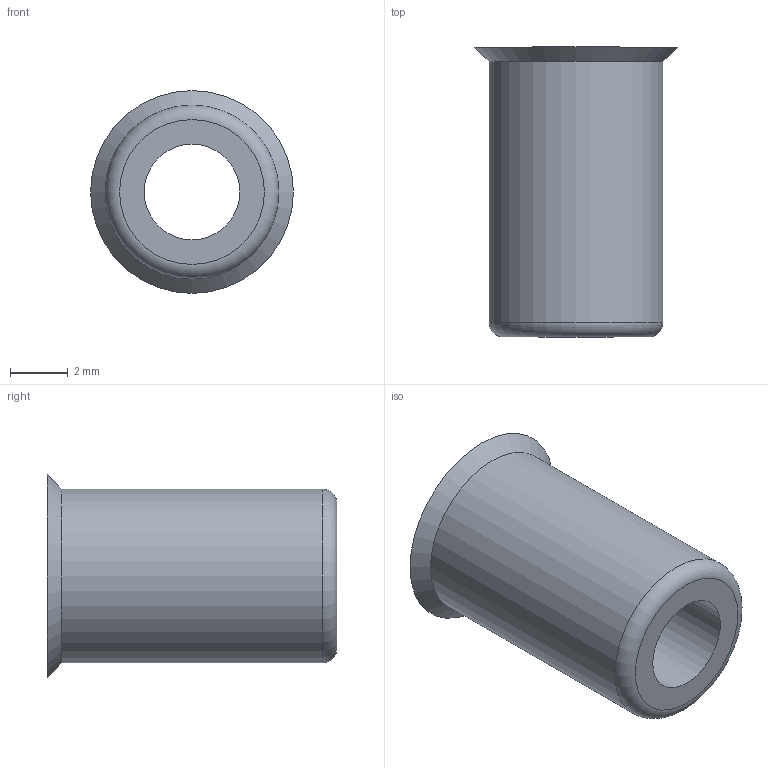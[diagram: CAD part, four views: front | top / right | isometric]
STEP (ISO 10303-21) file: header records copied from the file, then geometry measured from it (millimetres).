
FILE_DESCRIPTION (( 'STEP AP214' ), '1' );
FILE_NAME ('F10164.step', '2024-12-03T16:14:05', ( '' ), ( '' ), 'SwSTEP 2.0', 'SolidWorks 2023', '' );
FILE_SCHEMA (( 'AUTOMOTIVE_DESIGN' ));
Length unit declared in the file: millimetre
Products named in the file (1): F10164
Bounding box: 7 x 10 x 7 mm (x, y, z)
Volume: 154.4 mm3; surface area: 364 mm2
Topology: 1 solids, 1 shells, 8 faces, 15 edges, 10 vertices
Faces by surface type: plane 3, cylinder 3, cone 1, torus 1
Full cylindrical faces by diameter (mm): 3.3 x1, 5 x1, 6 x1
Entity records: 191 total; most frequent: DIRECTION 34, CARTESIAN_POINT 25, AXIS2_PLACEMENT_3D 17, EDGE_LOOP 16, ORIENTED_EDGE 16, FACE_OUTER_BOUND 12, ADVANCED_FACE 8, VERTEX_POINT 8
